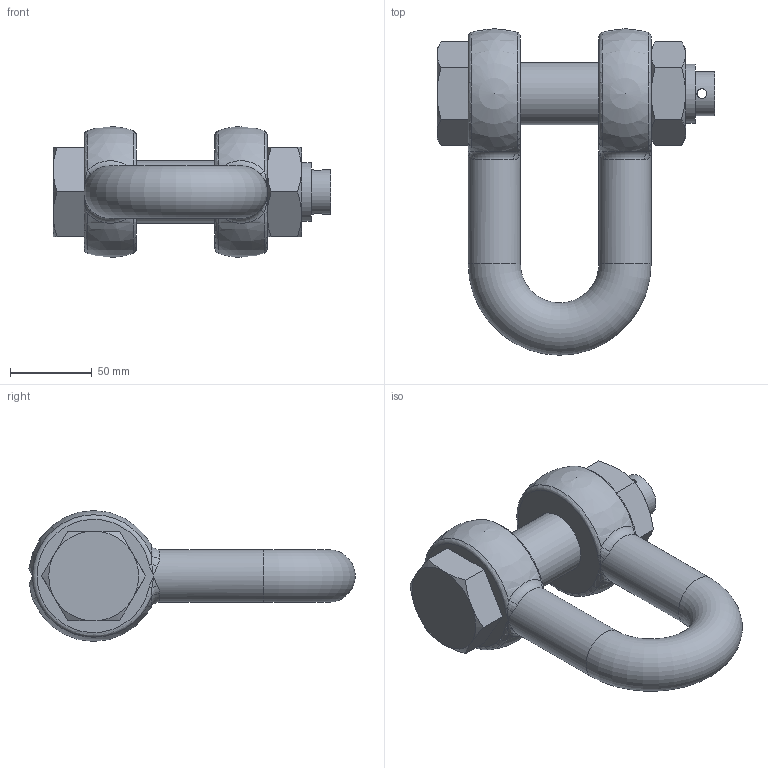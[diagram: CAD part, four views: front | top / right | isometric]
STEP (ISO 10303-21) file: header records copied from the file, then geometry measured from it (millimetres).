
FILE_DESCRIPTION(/* description */ (''),/* implementation_level */ '2;1');
FILE_NAME(/* name */ 'C:\Users\D\Documents\Inventor\HP\吊具\シャックル\SB_2\sb_32.stp',/* time_stamp */ '2024-11-14T11:44:42+09:00',/* author */ ('D'),/* organization */ (''),/* preprocessor_version */ 'ST-DEVELOPER v18',/* originating_system */ 'Autodesk Inventor 2020',/* authorisation */ '');
FILE_SCHEMA (('AUTOMOTIVE_DESIGN { 1 0 10303 214 3 1 1 }'));
Length unit declared in the file: millimetre
Products named in the file (3): sb_32; sb_6; sb_pin_10
Assembly tree (2 placements, depth 2):
  sb_32
    sb_6
    sb_pin_10
Bounding box: 170 x 199.71 x 80 mm (x, y, z)
Volume: 677975.4 mm3; surface area: 90906.2 mm2
Topology: 2 solids, 2 shells, 84 faces, 216 edges, 119 vertices
Faces by surface type: bspline 24, plane 22, cone 19, torus 9, cylinder 8, sphere 2
Full cylindrical faces by diameter (mm): 6 x1, 27 x1, 32 x2, 36 x1, 38 x1, 39 x2
Entity records: 3213 total; most frequent: CARTESIAN_POINT 1383, ORIENTED_EDGE 392, DIRECTION 332, EDGE_CURVE 196, AXIS2_PLACEMENT_3D 152, VERTEX_POINT 119, EDGE_LOOP 93, CIRCLE 87
